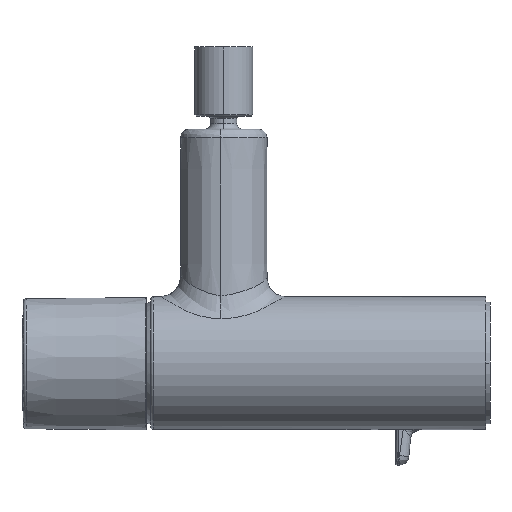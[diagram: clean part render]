
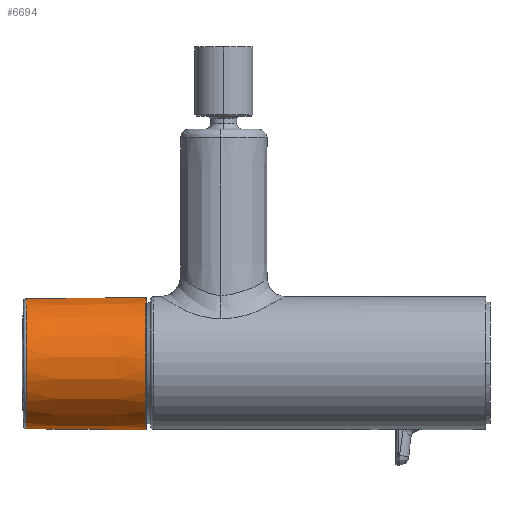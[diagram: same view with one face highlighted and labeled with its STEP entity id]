
A CAD part, left-side view. The second image highlights one B-rep face of the part: STEP entity #6694.
In plain terms, the highlighted conical face has half-angle 0.5 degrees and reference radius 22.818 mm.
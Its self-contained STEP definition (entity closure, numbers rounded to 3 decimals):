
#4746=CARTESIAN_POINT('',(0.,117.852,-0.15));
#4747=DIRECTION('',(0.,1.,0.));
#4748=DIRECTION('',(0.127,0.,0.992));
#4749=AXIS2_PLACEMENT_3D('',#4746,#4747,#4748);
#4751=CARTESIAN_POINT('',(2.924,159.186,22.298));
#4752=CARTESIAN_POINT('',(2.925,154.625,22.338));
#4753=CARTESIAN_POINT('',(2.925,145.482,22.418));
#4754=CARTESIAN_POINT('',(2.926,131.704,22.54));
#4755=CARTESIAN_POINT('',(2.926,122.476,22.621));
#4756=CARTESIAN_POINT('',(2.926,117.852,22.661));
#4758=CARTESIAN_POINT('',(-2.926,117.852,22.661));
#4759=CARTESIAN_POINT('',(-2.926,122.476,22.621));
#4760=CARTESIAN_POINT('',(-2.926,131.704,22.54));
#4761=CARTESIAN_POINT('',(-2.925,145.482,22.418));
#4762=CARTESIAN_POINT('',(-2.925,154.625,22.338));
#4763=CARTESIAN_POINT('',(-2.924,159.186,22.298));
#4793=CARTESIAN_POINT('',(0.,159.186,-0.15));
#4794=DIRECTION('',(0.,-1.,0.));
#4795=DIRECTION('',(-0.129,0.,0.992));
#4796=AXIS2_PLACEMENT_3D('',#4793,#4794,#4795);
#4814=CARTESIAN_POINT('',(2.924,159.186,22.298));
#5615=CARTESIAN_POINT('',(2.926,117.852,22.661));
#5616=CARTESIAN_POINT('',(-2.926,117.852,22.661));
#5617=VERTEX_POINT('',#5615);
#5618=VERTEX_POINT('',#5616);
#5730=VERTEX_POINT('',#4763);
#5739=VERTEX_POINT('',#4814);
#6680=CARTESIAN_POINT('',(0.,138.519,-0.15));
#6681=DIRECTION('',(0.,-1.,0.));
#6682=DIRECTION('',(-1.,0.,0.));
#6683=AXIS2_PLACEMENT_3D('',#6680,#6681,#6682);
#6684=CONICAL_SURFACE('',#6683,22.818,0.5);
#6685=ORIENTED_EDGE('',*,*,#6671,.F.);
#6687=ORIENTED_EDGE('',*,*,#6686,.F.);
#6689=ORIENTED_EDGE('',*,*,#6688,.F.);
#6691=ORIENTED_EDGE('',*,*,#6690,.F.);
#6692=EDGE_LOOP('',(#6685,#6687,#6689,#6691));
#6693=FACE_OUTER_BOUND('',#6692,.F.);
#6694=ADVANCED_FACE('',(#6693),#6684,.T.);
#4750=CIRCLE('',#4749,22.998);
#4757=B_SPLINE_CURVE_WITH_KNOTS('',3,(#4751,#4752,#4753,#4754,#4755,#4756),
.UNSPECIFIED.,.F.,.F.,(4,1,1,4),(0.,0.333,0.667,1.),
.UNSPECIFIED.);
#4764=B_SPLINE_CURVE_WITH_KNOTS('',3,(#4758,#4759,#4760,#4761,#4762,#4763),
.UNSPECIFIED.,.F.,.F.,(4,1,1,4),(0.,0.333,0.667,1.),
.UNSPECIFIED.);
#4797=CIRCLE('',#4796,22.638);
#6671=EDGE_CURVE('',#5617,#5618,#4750,.T.);
#6686=EDGE_CURVE('',#5739,#5617,#4757,.T.);
#6688=EDGE_CURVE('',#5730,#5739,#4797,.T.);
#6690=EDGE_CURVE('',#5618,#5730,#4764,.T.);
